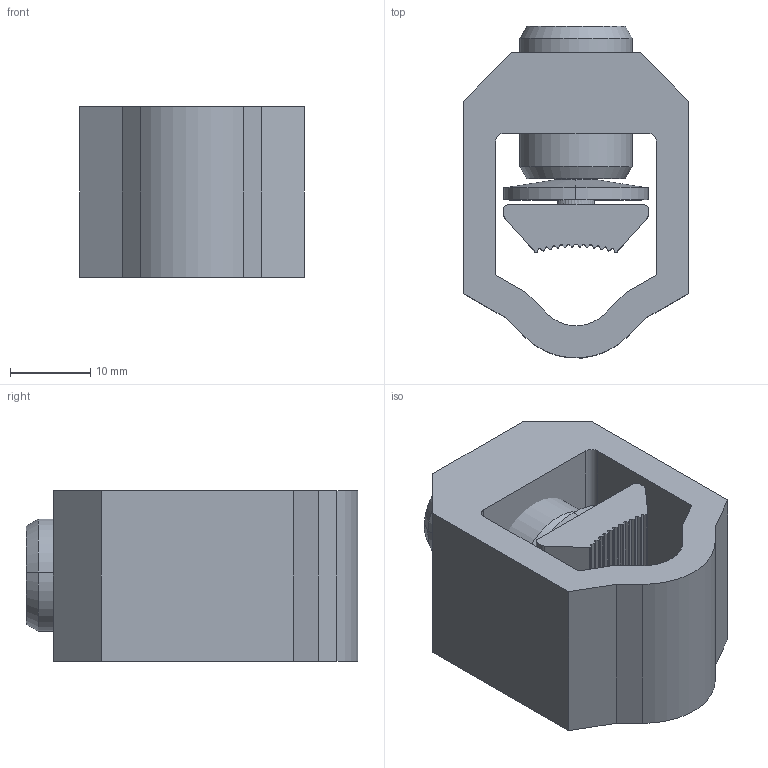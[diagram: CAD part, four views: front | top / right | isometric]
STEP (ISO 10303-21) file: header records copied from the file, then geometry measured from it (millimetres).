
FILE_DESCRIPTION (( 'STEP AP214' ), '1' );
FILE_NAME ('25-120SW.STEP', '2010-03-18T10:44:38', ( '£ukaszC' ), ( '' ), 'SwSTEP 2.0', 'SolidWorks 2008', '' );
FILE_SCHEMA (( 'AUTOMOTIVE_DESIGN' ));
Length unit declared in the file: millimetre
Products named in the file (5): 25-120SW; 4.25120SW.02.00.00_Domyœlna; 4.25120SW.01.00.00; 4.25120SW.03.00.00; 4.50240SW.03.00.00
Assembly tree (4 placements, depth 2):
  25-120SW
    4.50240SW.03.00.00
    4.25120SW.03.00.00
    4.25120SW.02.00.00_Domyœlna
    4.25120SW.01.00.00
Bounding box: 28 x 41.32 x 21.2 mm (x, y, z)
Volume: 13982.2 mm3; surface area: 8358.8 mm2
Topology: 4 solids, 4 shells, 172 faces, 476 edges, 311 vertices
Faces by surface type: cylinder 80, plane 76, cone 14, bspline 2
Entity records: 5894 total; most frequent: CARTESIAN_POINT 1406, ORIENTED_EDGE 948, DIRECTION 860, EDGE_CURVE 474, VERTEX_POINT 311, AXIS2_PLACEMENT_3D 301, VECTOR 258, LINE 258
